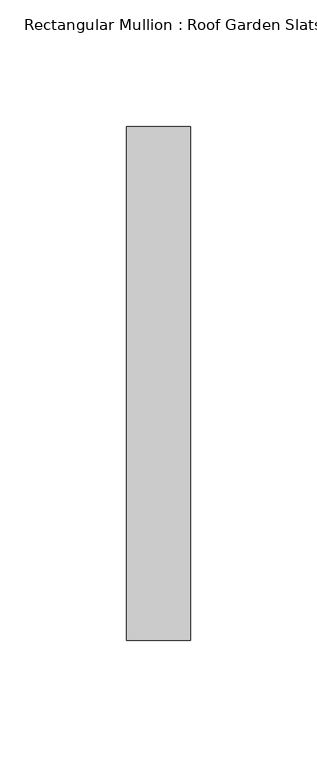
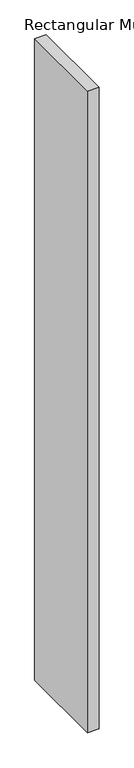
"""IFC4 building model written with IfcOpenShell, lengths in millimetres: member geometry, Rectangular Mullion : Roof Garden Slats."""

from ifc_helpers import new_model, si_unit, frame, origin, place, context, project, spatial, polyline, outline, extrude, source, transform, mapped, element, save


def rectangular_mullion_roof_garden_slats_d683934f(model_context):
    return source(origin(), model_context, "Body", "SweptSolid", [
        extrude(outline(polyline([(0.0, 139.7), (0.0, -63.5), (-25.4, -63.5), (-25.4, 139.7), (0.0, 139.7)])), frame((0.0, 0.0, -1508.3871549), z_axis=(0.0, 0.0, 1.0), x_axis=(1.0, 0.0, 0.0)), (0.0, 0.0, 1.0), 1508.3871549),
    ])


if __name__ == "__main__":
    model = new_model("IFC4")
    model_context = context("Model", 3, world=origin())
    ifc_project = project(units=[si_unit("LENGTHUNIT", "METRE", prefix="MILLI")], contexts=[model_context])
    site = spatial("IfcSite", under=ifc_project)
    building = spatial("IfcBuilding", under=site)
    placement = place(None, origin())
    rectangular_mullion_roof_garden_slats_shape = rectangular_mullion_roof_garden_slats_d683934f(model_context)
    element("IfcMember", 1, ObjectType="Rectangular Mullion : Roof Garden Slats", at=placement, inside=building, context=model_context, shape_type="MappedRepresentation", body=[
        mapped(rectangular_mullion_roof_garden_slats_shape, transform((0.0, 0.0, 0.0), x_axis=(1.0, 0.0, 0.0), y_axis=(0.0, 1.0, 0.0), z_axis=(0.0, 0.0, 1.0))),
    ])
    save(model, "model.ifc")
